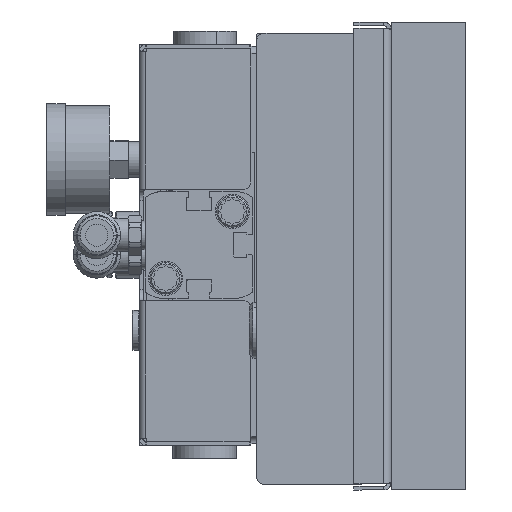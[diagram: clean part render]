
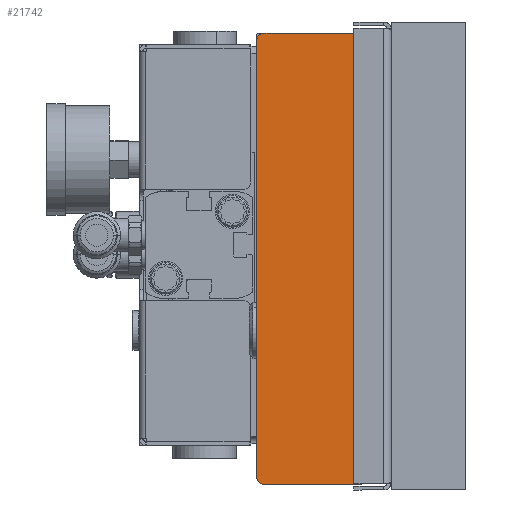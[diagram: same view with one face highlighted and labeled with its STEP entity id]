
A CAD part, left-side view. The second image highlights one B-rep face of the part: STEP entity #21742.
In plain terms, the highlighted planar face has unit normal (-1, 0, 0).
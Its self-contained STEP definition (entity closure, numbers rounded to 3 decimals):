
#827 = CIRCLE ( 'NONE', #25415, 2. ) ;
#1543 = VERTEX_POINT ( 'NONE', #40659 ) ;
#1984 = VERTEX_POINT ( 'NONE', #3505 ) ;
#1988 = DIRECTION ( 'NONE',  ( -1., 0., 0. ) ) ;
#3505 = CARTESIAN_POINT ( 'NONE',  ( -169.048, 2.8, -61.961 ) ) ;
#3538 = EDGE_CURVE ( 'NONE', #9560, #4374, #827, .T. ) ;
#4374 = VERTEX_POINT ( 'NONE', #44167 ) ;
#5176 = CARTESIAN_POINT ( 'NONE',  ( -169.048, 0.8, 59.539 ) ) ;
#5415 = DIRECTION ( 'NONE',  ( -1., 0., 0. ) ) ;
#6440 = ORIENTED_EDGE ( 'NONE', *, *, #13874, .T. ) ;
#7056 = DIRECTION ( 'NONE',  ( -1., 0., 0. ) ) ;
#7868 = VECTOR ( 'NONE', #22748, 1000. ) ;
#8730 = EDGE_CURVE ( 'NONE', #23403, #1984, #43036, .T. ) ;
#9560 = VERTEX_POINT ( 'NONE', #21042 ) ;
#9747 = AXIS2_PLACEMENT_3D ( 'NONE', #29476, #1988, #34103 ) ;
#9776 = DIRECTION ( 'NONE',  ( 0., 0., 1. ) ) ;
#11772 = CIRCLE ( 'NONE', #30141, 2. ) ;
#13622 = ORIENTED_EDGE ( 'NONE', *, *, #47741, .T. ) ;
#13720 = CARTESIAN_POINT ( 'NONE',  ( -169.048, 30.8, -61.961 ) ) ;
#13874 = EDGE_CURVE ( 'NONE', #45101, #9560, #14596, .T. ) ;
#14006 = LINE ( 'NONE', #47452, #49156 ) ;
#14596 = LINE ( 'NONE', #40028, #49757 ) ;
#15796 = VECTOR ( 'NONE', #28235, 1000. ) ;
#18315 = ORIENTED_EDGE ( 'NONE', *, *, #35212, .T. ) ;
#18799 = PLANE ( 'NONE',  #31983 ) ;
#19192 = CARTESIAN_POINT ( 'NONE',  ( -169.048, 28.8, -61.961 ) ) ;
#21031 = CARTESIAN_POINT ( 'NONE',  ( -169.048, 28.8, 57.539 ) ) ;
#21042 = CARTESIAN_POINT ( 'NONE',  ( -169.048, 28.8, 59.539 ) ) ;
#21742 = ADVANCED_FACE ( 'NONE', ( #55763 ), #18799, .F. ) ;
#22477 = ORIENTED_EDGE ( 'NONE', *, *, #58020, .T. ) ;
#22748 = DIRECTION ( 'NONE',  ( 0., -1., 0. ) ) ;
#23403 = VERTEX_POINT ( 'NONE', #19192 ) ;
#23650 = VERTEX_POINT ( 'NONE', #48052 ) ;
#25415 = AXIS2_PLACEMENT_3D ( 'NONE', #21031, #53116, #25647 ) ;
#25647 = DIRECTION ( 'NONE',  ( 0., 0., 1. ) ) ;
#28235 = DIRECTION ( 'NONE',  ( 0., 0., 1. ) ) ;
#28616 = CARTESIAN_POINT ( 'NONE',  ( -169.048, 0.8, 59.539 ) ) ;
#29476 = CARTESIAN_POINT ( 'NONE',  ( -169.048, 2.8, -59.961 ) ) ;
#30141 = AXIS2_PLACEMENT_3D ( 'NONE', #34565, #7056, #39183 ) ;
#31983 = AXIS2_PLACEMENT_3D ( 'NONE', #5176, #37260, #9776 ) ;
#32861 = CARTESIAN_POINT ( 'NONE',  ( -169.048, 2.8, 57.539 ) ) ;
#34103 = DIRECTION ( 'NONE',  ( 0., 0., 1. ) ) ;
#34565 = CARTESIAN_POINT ( 'NONE',  ( -169.048, 28.8, -59.961 ) ) ;
#34715 = VERTEX_POINT ( 'NONE', #58824 ) ;
#35212 = EDGE_CURVE ( 'NONE', #1543, #45101, #52393, .T. ) ;
#37260 = DIRECTION ( 'NONE',  ( 1., 0., 0. ) ) ;
#37502 = DIRECTION ( 'NONE',  ( 0., 0., 1. ) ) ;
#39183 = DIRECTION ( 'NONE',  ( 0., 0., 1. ) ) ;
#39489 = EDGE_CURVE ( 'NONE', #34715, #23403, #11772, .T. ) ;
#40028 = CARTESIAN_POINT ( 'NONE',  ( -169.048, 30.8, 59.539 ) ) ;
#40376 = ORIENTED_EDGE ( 'NONE', *, *, #39489, .T. ) ;
#40659 = CARTESIAN_POINT ( 'NONE',  ( -169.048, 0.8, 57.539 ) ) ;
#42396 = ORIENTED_EDGE ( 'NONE', *, *, #8730, .T. ) ;
#43036 = LINE ( 'NONE', #13720, #7868 ) ;
#44167 = CARTESIAN_POINT ( 'NONE',  ( -169.048, 30.8, 57.539 ) ) ;
#45101 = VERTEX_POINT ( 'NONE', #59214 ) ;
#46339 = ORIENTED_EDGE ( 'NONE', *, *, #3538, .T. ) ;
#47452 = CARTESIAN_POINT ( 'NONE',  ( -169.048, 30.8, 59.539 ) ) ;
#47741 = EDGE_CURVE ( 'NONE', #23650, #1543, #50960, .T. ) ;
#48052 = CARTESIAN_POINT ( 'NONE',  ( -169.048, 0.8, -59.961 ) ) ;
#49072 = DIRECTION ( 'NONE',  ( 0., 1., 0. ) ) ;
#49156 = VECTOR ( 'NONE', #52264, 1000. ) ;
#49757 = VECTOR ( 'NONE', #49072, 1000. ) ;
#49819 = ORIENTED_EDGE ( 'NONE', *, *, #52844, .T. ) ;
#50172 = AXIS2_PLACEMENT_3D ( 'NONE', #32861, #5415, #37502 ) ;
#50960 = LINE ( 'NONE', #28616, #15796 ) ;
#51608 = EDGE_LOOP ( 'NONE', ( #42396, #22477, #13622, #18315, #6440, #46339, #49819, #40376 ) ) ;
#52264 = DIRECTION ( 'NONE',  ( 0., 0., -1. ) ) ;
#52393 = CIRCLE ( 'NONE', #50172, 2. ) ;
#52435 = CIRCLE ( 'NONE', #9747, 2. ) ;
#52844 = EDGE_CURVE ( 'NONE', #4374, #34715, #14006, .T. ) ;
#53116 = DIRECTION ( 'NONE',  ( -1., 0., 0. ) ) ;
#55763 = FACE_OUTER_BOUND ( 'NONE', #51608, .T. ) ;
#58020 = EDGE_CURVE ( 'NONE', #1984, #23650, #52435, .T. ) ;
#58824 = CARTESIAN_POINT ( 'NONE',  ( -169.048, 30.8, -59.961 ) ) ;
#59214 = CARTESIAN_POINT ( 'NONE',  ( -169.048, 2.8, 59.539 ) ) ;
